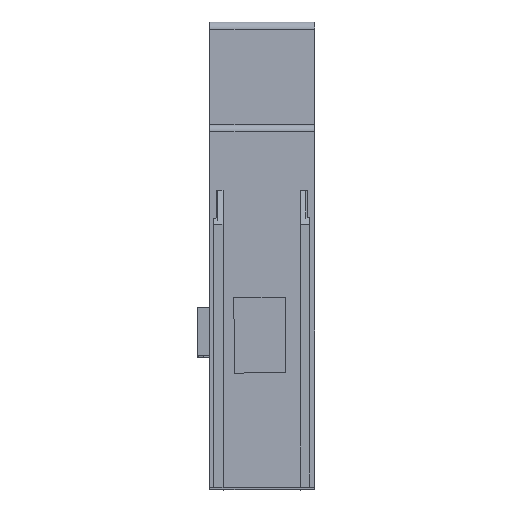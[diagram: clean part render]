
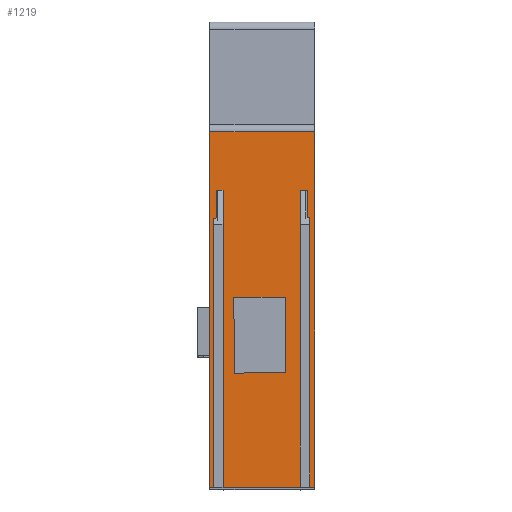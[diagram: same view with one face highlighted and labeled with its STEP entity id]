
A CAD part, front view. The second image highlights one B-rep face of the part: STEP entity #1219.
In plain terms, the highlighted planar face has unit normal (0, -1, 0.005) as drawn and (0, -1, 0) by its records, which use the part's own axes.
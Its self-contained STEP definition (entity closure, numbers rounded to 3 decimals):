
#30 = CARTESIAN_POINT ( 'NONE',  ( -0.273, -32.641, 15.652 ) ) ;
#65 = EDGE_LOOP ( 'NONE', ( #3034, #142, #1550, #1038, #2240, #4159, #3838, #2186, #1213, #3734, #2569, #1751 ) ) ;
#120 = VERTEX_POINT ( 'NONE', #3378 ) ;
#142 = ORIENTED_EDGE ( 'NONE', *, *, #4180, .F. ) ;
#148 = EDGE_CURVE ( 'NONE', #3181, #3122, #3922, .T. ) ;
#171 = LINE ( 'NONE', #2047, #3282 ) ;
#254 = DIRECTION ( 'NONE',  ( 0., -1., 0. ) ) ;
#282 = CARTESIAN_POINT ( 'NONE',  ( -7.041, -32.641, 0. ) ) ;
#314 = VECTOR ( 'NONE', #3279, 1000. ) ;
#401 = EDGE_CURVE ( 'NONE', #4076, #3728, #1597, .T. ) ;
#475 = CARTESIAN_POINT ( 'NONE',  ( 3.459, -32.641, 63.491 ) ) ;
#493 = DIRECTION ( 'NONE',  ( 0., 0., -1. ) ) ;
#509 = DIRECTION ( 'NONE',  ( -1., 0., 0. ) ) ;
#553 = VERTEX_POINT ( 'NONE', #1711 ) ;
#570 = FACE_BOUND ( 'NONE', #710, .T. ) ;
#615 = VECTOR ( 'NONE', #1781, 1000. ) ;
#636 = VECTOR ( 'NONE', #3624, 1000. ) ;
#706 = DIRECTION ( 'NONE',  ( 1., 0., 0. ) ) ;
#710 = EDGE_LOOP ( 'NONE', ( #2827, #3724, #4134, #1222 ) ) ;
#720 = LINE ( 'NONE', #1771, #615 ) ;
#762 = EDGE_CURVE ( 'NONE', #3728, #878, #1594, .T. ) ;
#817 = CARTESIAN_POINT ( 'NONE',  ( -8.85, -32.641, 0. ) ) ;
#878 = VERTEX_POINT ( 'NONE', #4428 ) ;
#880 = LINE ( 'NONE', #1891, #3240 ) ;
#883 = DIRECTION ( 'NONE',  ( -0.009, 0., 1. ) ) ;
#945 = CARTESIAN_POINT ( 'NONE',  ( -8.85, -32.641, 48.491 ) ) ;
#1038 = ORIENTED_EDGE ( 'NONE', *, *, #3140, .F. ) ;
#1213 = ORIENTED_EDGE ( 'NONE', *, *, #1559, .F. ) ;
#1219 = ADVANCED_FACE ( 'NONE', ( #2801, #570 ), #2709, .T. ) ;
#1222 = ORIENTED_EDGE ( 'NONE', *, *, #2910, .T. ) ;
#1234 = CARTESIAN_POINT ( 'NONE',  ( -7.041, -32.641, 40.5 ) ) ;
#1276 = VECTOR ( 'NONE', #509, 1000. ) ;
#1285 = VECTOR ( 'NONE', #3761, 1000. ) ;
#1313 = CARTESIAN_POINT ( 'NONE',  ( -8.85, -32.641, 0. ) ) ;
#1467 = LINE ( 'NONE', #1965, #4335 ) ;
#1527 = VECTOR ( 'NONE', #2004, 1000. ) ;
#1532 = CARTESIAN_POINT ( 'NONE',  ( 4.462, -32.641, 40.5 ) ) ;
#1550 = ORIENTED_EDGE ( 'NONE', *, *, #1680, .T. ) ;
#1559 = EDGE_CURVE ( 'NONE', #4076, #553, #3352, .T. ) ;
#1594 = LINE ( 'NONE', #1626, #636 ) ;
#1597 = LINE ( 'NONE', #4266, #314 ) ;
#1610 = EDGE_CURVE ( 'NONE', #1997, #2326, #1467, .T. ) ;
#1623 = VERTEX_POINT ( 'NONE', #3092 ) ;
#1626 = CARTESIAN_POINT ( 'NONE',  ( 4.462, -32.641, 63.491 ) ) ;
#1649 = CARTESIAN_POINT ( 'NONE',  ( 5.45, -32.641, 48.491 ) ) ;
#1680 = EDGE_CURVE ( 'NONE', #2421, #120, #1863, .T. ) ;
#1684 = DIRECTION ( 'NONE',  ( -1., 0., 0. ) ) ;
#1696 = EDGE_CURVE ( 'NONE', #4525, #878, #3124, .T. ) ;
#1711 = CARTESIAN_POINT ( 'NONE',  ( 3.459, -32.641, 0. ) ) ;
#1751 = ORIENTED_EDGE ( 'NONE', *, *, #1696, .F. ) ;
#1771 = CARTESIAN_POINT ( 'NONE',  ( -8.85, -32.641, 48.491 ) ) ;
#1773 = CARTESIAN_POINT ( 'NONE',  ( 5.45, -32.641, 0. ) ) ;
#1781 = DIRECTION ( 'NONE',  ( 1., 0., 0. ) ) ;
#1863 = LINE ( 'NONE', #3749, #1527 ) ;
#1891 = CARTESIAN_POINT ( 'NONE',  ( 1.651, -32.641, 0.014 ) ) ;
#1909 = DIRECTION ( 'NONE',  ( 0., 0., -1. ) ) ;
#1965 = CARTESIAN_POINT ( 'NONE',  ( -5.349, -32.641, -0.047 ) ) ;
#1972 = VECTOR ( 'NONE', #3875, 1000. ) ;
#1997 = VERTEX_POINT ( 'NONE', #4258 ) ;
#2004 = DIRECTION ( 'NONE',  ( 0., 0., -1. ) ) ;
#2026 = CARTESIAN_POINT ( 'NONE',  ( -8.85, -32.641, 0. ) ) ;
#2034 = CARTESIAN_POINT ( 'NONE',  ( -8.85, -32.641, 0. ) ) ;
#2047 = CARTESIAN_POINT ( 'NONE',  ( 0., -32.641, 25.883 ) ) ;
#2094 = CARTESIAN_POINT ( 'NONE',  ( 5.45, -32.641, 0. ) ) ;
#2096 = LINE ( 'NONE', #2235, #3266 ) ;
#2186 = ORIENTED_EDGE ( 'NONE', *, *, #3756, .F. ) ;
#2235 = CARTESIAN_POINT ( 'NONE',  ( -7.041, -32.641, 63.491 ) ) ;
#2240 = ORIENTED_EDGE ( 'NONE', *, *, #3083, .F. ) ;
#2311 = VERTEX_POINT ( 'NONE', #2744 ) ;
#2326 = VERTEX_POINT ( 'NONE', #3455 ) ;
#2421 = VERTEX_POINT ( 'NONE', #945 ) ;
#2535 = EDGE_CURVE ( 'NONE', #3122, #2707, #2096, .T. ) ;
#2542 = LINE ( 'NONE', #1313, #4070 ) ;
#2569 = ORIENTED_EDGE ( 'NONE', *, *, #762, .T. ) ;
#2707 = VERTEX_POINT ( 'NONE', #282 ) ;
#2709 = PLANE ( 'NONE',  #3873 ) ;
#2740 = DIRECTION ( 'NONE',  ( 0., 0., -1. ) ) ;
#2744 = CARTESIAN_POINT ( 'NONE',  ( 1.425, -32.641, 25.883 ) ) ;
#2801 = FACE_OUTER_BOUND ( 'NONE', #65, .T. ) ;
#2827 = ORIENTED_EDGE ( 'NONE', *, *, #1610, .T. ) ;
#2831 = DIRECTION ( 'NONE',  ( -1., 0., -0.017 ) ) ;
#2910 = EDGE_CURVE ( 'NONE', #1623, #1997, #2919, .T. ) ;
#2912 = VECTOR ( 'NONE', #493, 1000. ) ;
#2919 = LINE ( 'NONE', #30, #4185 ) ;
#2972 = VECTOR ( 'NONE', #4502, 1000. ) ;
#3034 = ORIENTED_EDGE ( 'NONE', *, *, #3205, .F. ) ;
#3083 = EDGE_CURVE ( 'NONE', #3181, #3843, #3792, .T. ) ;
#3092 = CARTESIAN_POINT ( 'NONE',  ( 1.514, -32.641, 15.684 ) ) ;
#3122 = VERTEX_POINT ( 'NONE', #1234 ) ;
#3124 = LINE ( 'NONE', #2026, #1285 ) ;
#3140 = EDGE_CURVE ( 'NONE', #3843, #120, #2542, .T. ) ;
#3181 = VERTEX_POINT ( 'NONE', #4122 ) ;
#3190 = CARTESIAN_POINT ( 'NONE',  ( -7.982, -32.641, 63.491 ) ) ;
#3205 = EDGE_CURVE ( 'NONE', #3524, #4525, #3848, .T. ) ;
#3240 = VECTOR ( 'NONE', #3658, 1000. ) ;
#3266 = VECTOR ( 'NONE', #3645, 1000. ) ;
#3279 = DIRECTION ( 'NONE',  ( 1., 0., 0. ) ) ;
#3282 = VECTOR ( 'NONE', #706, 1000. ) ;
#3352 = LINE ( 'NONE', #475, #2912 ) ;
#3378 = CARTESIAN_POINT ( 'NONE',  ( -8.85, -32.641, 0. ) ) ;
#3393 = LINE ( 'NONE', #817, #1276 ) ;
#3411 = CARTESIAN_POINT ( 'NONE',  ( -7.982, -32.641, 0. ) ) ;
#3455 = CARTESIAN_POINT ( 'NONE',  ( -5.575, -32.641, 25.883 ) ) ;
#3459 = CARTESIAN_POINT ( 'NONE',  ( -8.85, -32.641, 40.5 ) ) ;
#3524 = VERTEX_POINT ( 'NONE', #1649 ) ;
#3624 = DIRECTION ( 'NONE',  ( 0., 0., -1. ) ) ;
#3645 = DIRECTION ( 'NONE',  ( 0., 0., -1. ) ) ;
#3658 = DIRECTION ( 'NONE',  ( 0.009, 0., -1. ) ) ;
#3724 = ORIENTED_EDGE ( 'NONE', *, *, #4530, .T. ) ;
#3728 = VERTEX_POINT ( 'NONE', #1532 ) ;
#3734 = ORIENTED_EDGE ( 'NONE', *, *, #401, .T. ) ;
#3737 = EDGE_CURVE ( 'NONE', #2311, #1623, #880, .T. ) ;
#3749 = CARTESIAN_POINT ( 'NONE',  ( -8.85, -32.641, 0. ) ) ;
#3756 = EDGE_CURVE ( 'NONE', #553, #2707, #3393, .T. ) ;
#3761 = DIRECTION ( 'NONE',  ( -1., 0., 0. ) ) ;
#3792 = LINE ( 'NONE', #3190, #4563 ) ;
#3838 = ORIENTED_EDGE ( 'NONE', *, *, #2535, .T. ) ;
#3843 = VERTEX_POINT ( 'NONE', #3411 ) ;
#3848 = LINE ( 'NONE', #1773, #1972 ) ;
#3873 = AXIS2_PLACEMENT_3D ( 'NONE', #2034, #254, #2740 ) ;
#3875 = DIRECTION ( 'NONE',  ( 0., 0., -1. ) ) ;
#3922 = LINE ( 'NONE', #3459, #2972 ) ;
#4070 = VECTOR ( 'NONE', #1684, 1000. ) ;
#4076 = VERTEX_POINT ( 'NONE', #4232 ) ;
#4122 = CARTESIAN_POINT ( 'NONE',  ( -7.982, -32.641, 40.5 ) ) ;
#4134 = ORIENTED_EDGE ( 'NONE', *, *, #3737, .T. ) ;
#4159 = ORIENTED_EDGE ( 'NONE', *, *, #148, .T. ) ;
#4180 = EDGE_CURVE ( 'NONE', #2421, #3524, #720, .T. ) ;
#4185 = VECTOR ( 'NONE', #2831, 1000. ) ;
#4232 = CARTESIAN_POINT ( 'NONE',  ( 3.459, -32.641, 40.5 ) ) ;
#4258 = CARTESIAN_POINT ( 'NONE',  ( -5.485, -32.641, 15.561 ) ) ;
#4266 = CARTESIAN_POINT ( 'NONE',  ( -8.85, -32.641, 40.5 ) ) ;
#4335 = VECTOR ( 'NONE', #883, 1000. ) ;
#4428 = CARTESIAN_POINT ( 'NONE',  ( 4.462, -32.641, 0. ) ) ;
#4502 = DIRECTION ( 'NONE',  ( 1., 0., 0. ) ) ;
#4525 = VERTEX_POINT ( 'NONE', #2094 ) ;
#4530 = EDGE_CURVE ( 'NONE', #2326, #2311, #171, .T. ) ;
#4563 = VECTOR ( 'NONE', #1909, 1000. ) ;
